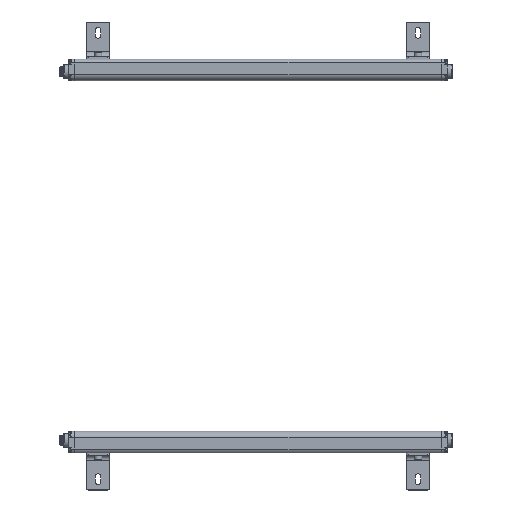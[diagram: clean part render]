
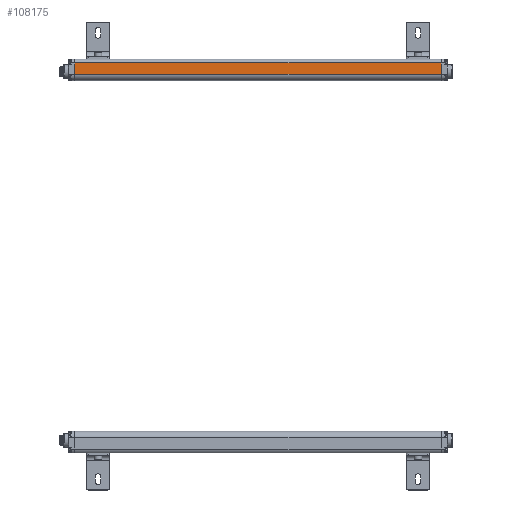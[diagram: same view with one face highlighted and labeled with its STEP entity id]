
A CAD part, left-side view. The second image highlights one B-rep face of the part: STEP entity #108175.
In plain terms, the highlighted planar face has unit normal (-1, 0, 0).
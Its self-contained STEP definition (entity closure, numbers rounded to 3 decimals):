
#4893 = CARTESIAN_POINT ( 'NONE',  ( -17.35, 465., -6.175 ) ) ;
#7487 = VERTEX_POINT ( 'NONE', #4893 ) ;
#8841 = VECTOR ( 'NONE', #130021, 1000. ) ;
#17254 = EDGE_CURVE ( 'NONE', #7487, #62321, #66366, .T. ) ;
#18465 = VERTEX_POINT ( 'NONE', #119571 ) ;
#25737 = DIRECTION ( 'NONE',  ( 0., 0., 1. ) ) ;
#28137 = FACE_OUTER_BOUND ( 'NONE', #57811, .T. ) ;
#28959 = VECTOR ( 'NONE', #116322, 1000. ) ;
#29069 = DIRECTION ( 'NONE',  ( 0., 0., 1. ) ) ;
#29600 = CARTESIAN_POINT ( 'NONE',  ( -17.35, 0., -6.175 ) ) ;
#33980 = CARTESIAN_POINT ( 'NONE',  ( -17.35, 0., -6.175 ) ) ;
#36429 = PLANE ( 'NONE',  #52658 ) ;
#45140 = DIRECTION ( 'NONE',  ( -1., 0., 0. ) ) ;
#48825 = CARTESIAN_POINT ( 'NONE',  ( -17.35, 465., 0. ) ) ;
#49105 = ORIENTED_EDGE ( 'NONE', *, *, #120854, .T. ) ;
#51868 = CARTESIAN_POINT ( 'NONE',  ( -17.35, 0., 0. ) ) ;
#52658 = AXIS2_PLACEMENT_3D ( 'NONE', #33980, #45140, #25737 ) ;
#54340 = VECTOR ( 'NONE', #29069, 1000. ) ;
#54621 = ORIENTED_EDGE ( 'NONE', *, *, #89353, .F. ) ;
#57811 = EDGE_LOOP ( 'NONE', ( #49105, #80285, #54621, #143471 ) ) ;
#61945 = CARTESIAN_POINT ( 'NONE',  ( -17.35, 0., 8.225 ) ) ;
#62321 = VERTEX_POINT ( 'NONE', #135902 ) ;
#66366 = LINE ( 'NONE', #48825, #99388 ) ;
#66443 = LINE ( 'NONE', #51868, #54340 ) ;
#75978 = EDGE_CURVE ( 'NONE', #18465, #138934, #66443, .T. ) ;
#80285 = ORIENTED_EDGE ( 'NONE', *, *, #75978, .T. ) ;
#84524 = LINE ( 'NONE', #61945, #28959 ) ;
#89353 = EDGE_CURVE ( 'NONE', #62321, #138934, #84524, .T. ) ;
#93929 = DIRECTION ( 'NONE',  ( 0., 0., 1. ) ) ;
#99388 = VECTOR ( 'NONE', #93929, 1000. ) ;
#108175 = ADVANCED_FACE ( 'NONE', ( #28137 ), #36429, .T. ) ;
#114041 = CARTESIAN_POINT ( 'NONE',  ( -17.35, 0., 8.225 ) ) ;
#116322 = DIRECTION ( 'NONE',  ( 0., -1., 0. ) ) ;
#119571 = CARTESIAN_POINT ( 'NONE',  ( -17.35, 0., -6.175 ) ) ;
#120854 = EDGE_CURVE ( 'NONE', #7487, #18465, #125113, .T. ) ;
#125113 = LINE ( 'NONE', #29600, #8841 ) ;
#130021 = DIRECTION ( 'NONE',  ( 0., -1., 0. ) ) ;
#135902 = CARTESIAN_POINT ( 'NONE',  ( -17.35, 465., 8.225 ) ) ;
#138934 = VERTEX_POINT ( 'NONE', #114041 ) ;
#143471 = ORIENTED_EDGE ( 'NONE', *, *, #17254, .F. ) ;
